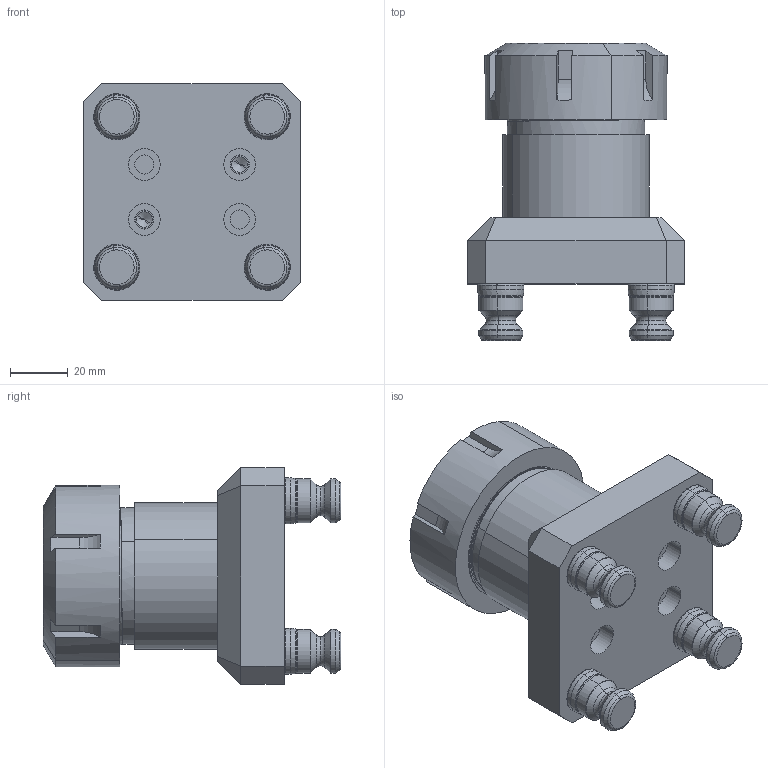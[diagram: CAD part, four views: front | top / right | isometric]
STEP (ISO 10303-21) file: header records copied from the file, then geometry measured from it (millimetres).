
FILE_DESCRIPTION (( 'STEP AP214' ), '1' );
FILE_NAME ('D_R52-CERX-40.STEP', '2020-06-08T16:00:23', ( '' ), ( '' ), 'SwSTEP 2.0', 'SolidWorks 2018', '' );
FILE_SCHEMA (( 'AUTOMOTIVE_DESIGN' ));
Length unit declared in the file: millimetre
Products named in the file (7): D_CERX40-1_CER40; D_CERX40-3; D_CERX-40; D_R52-CERX-40; D_PS16F_HARD TURN; D_CERX40-2; D_R52-CER4032
Assembly tree (9 placements, depth 3):
  D_R52-CERX-40
    D_R52-CER4032
    D_CERX-40
      D_CERX40-1_CER40
      D_CERX40-2
      D_CERX40-3
    D_PS16F_HARD TURN  x4
Bounding box: 75.01 x 102.89 x 75.01 mm (x, y, z)
Volume: 227166 mm3; surface area: 74932.9 mm2
Topology: 8 solids, 8 shells, 486 faces, 1176 edges, 717 vertices
Faces by surface type: cylinder 157, plane 154, torus 88, cone 85, bspline 2
Entity records: 12819 total; most frequent: CARTESIAN_POINT 3633, DIRECTION 1887, ORIENTED_EDGE 1816, EDGE_CURVE 908, AXIS2_PLACEMENT_3D 751, VERTEX_POINT 585, EDGE_LOOP 395, LINE 385
